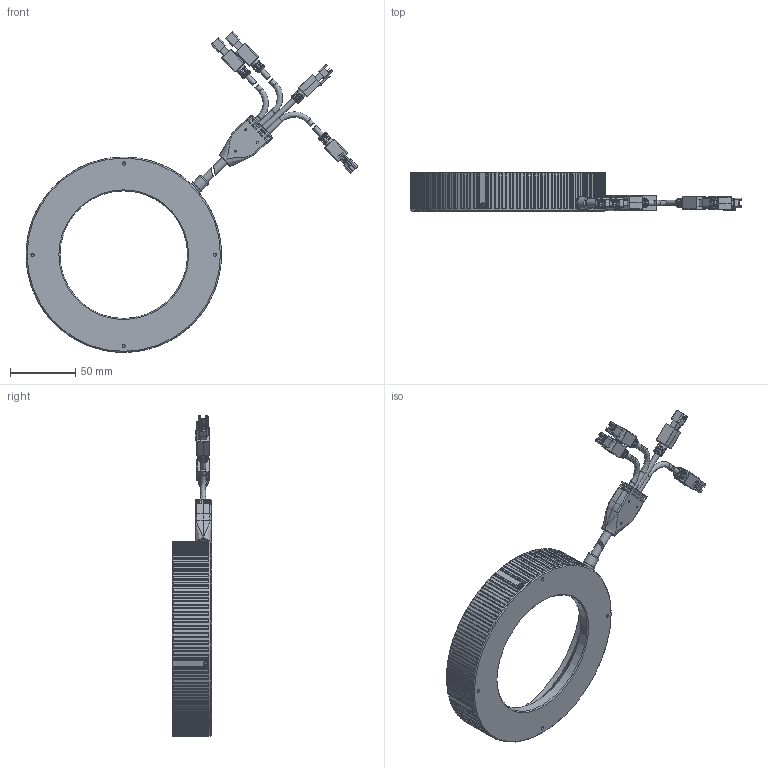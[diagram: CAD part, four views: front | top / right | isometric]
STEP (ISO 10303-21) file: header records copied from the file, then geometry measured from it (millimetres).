
FILE_DESCRIPTION (( 'STEP AP203' ), '1' );
FILE_NAME ('OPT-MSRI15045-X-V1.0尨砩芞.STEP', '2025-02-12T03:13:56', ( '' ), ( '' ), 'SwSTEP 2.0', 'SolidWorks 2016', '' );
FILE_SCHEMA (( 'CONFIG_CONTROL_DESIGN' ));
Products named in the file (1): OPT-MSRI15045-X-V1.0尨砩芞
Bounding box: 254.83 x 30 x 246.27 mm (x, y, z)
Surface area: 74265.4 mm2 (no closed solid volume)
Topology: 0 solids, 24 shells, 1661 faces, 4764 edges, 3091 vertices
Faces by surface type: plane 810, cylinder 643, cone 136, bspline 58, torus 14
Full cylindrical faces by diameter (mm): 1.1 x6, 1.5 x3, 1.6 x4, 2.4 x4, 2.5 x4, 4.1 x10, 5 x1, 6.4 x2, 7.5 x4, 8.6 x1, 9.3 x1, 9.8 x1, 98 x1, 103 x1, 106.8 x1, 142 x1, 146.1 x1, 150 x1
Entity records: 62081 total; most frequent: CARTESIAN_POINT 21365, ORIENTED_EDGE 8877, DIRECTION 7592, EDGE_CURVE 4622, VERTEX_POINT 3046, AXIS2_PLACEMENT_3D 2604, LINE 2384, VECTOR 2384
